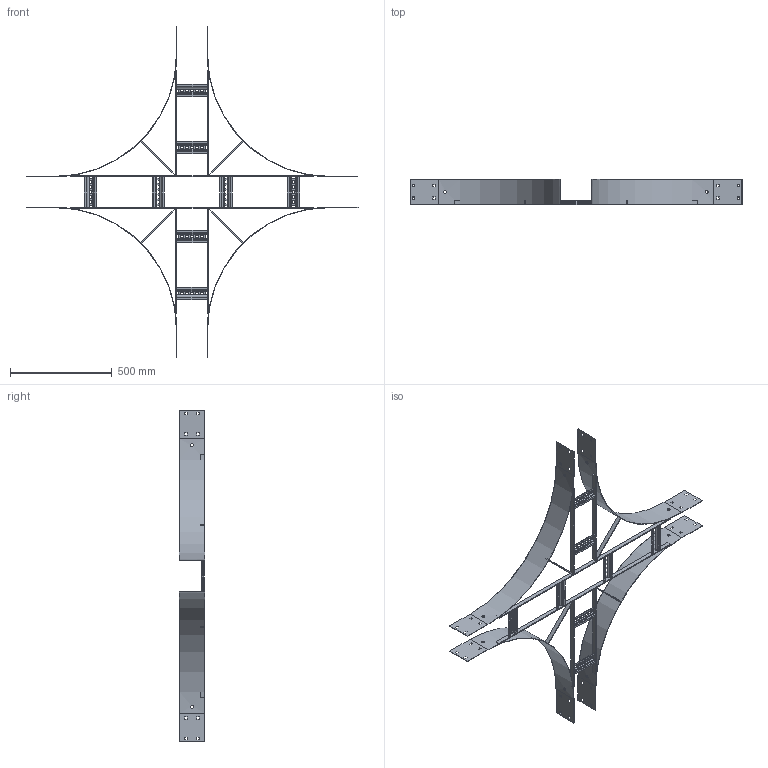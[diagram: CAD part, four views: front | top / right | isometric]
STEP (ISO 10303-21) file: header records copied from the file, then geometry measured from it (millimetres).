
FILE_DESCRIPTION (( 'STEP AP203' ), '1' );
FILE_NAME ('N3 C 1506.STEP', '2024-08-27T05:45:45', ( '' ), ( '' ), 'SwSTEP 2.0', 'SolidWorks 2023', '' );
FILE_SCHEMA (( 'CONFIG_CONTROL_DESIGN' ));
Length unit declared in the file: millimetre
Products named in the file (6): Ladder Tee 20x5 Flat Bar_1195; N3 C 1506; Ladder Tee 20x5 Flat Bar_518; Ladder Rung_Ladder Rung -  150mm; N3 RADIUS PLATE_N1-600 IR; Ladder Tee 20x5 Flat Bar_240
Assembly tree (22 placements, depth 2):
  N3 C 1506
    Ladder Rung_Ladder Rung -  150mm  x8
    Ladder Tee 20x5 Flat Bar_1195  x2
    N3 RADIUS PLATE_N1-600 IR  x4
    Ladder Tee 20x5 Flat Bar_518  x4
    Ladder Tee 20x5 Flat Bar_240  x4
Bounding box: 1635 x 124 x 1635 mm (x, y, z)
Volume: 1874708.2 mm3; surface area: 1672872.4 mm2
Topology: 22 solids, 22 shells, 788 faces, 1944 edges, 1200 vertices
Faces by surface type: plane 700, cylinder 88
Entity records: 5420 total; most frequent: CARTESIAN_POINT 1043, ORIENTED_EDGE 664, DIRECTION 662, EDGE_CURVE 332, LINE 304, VECTOR 304, VERTEX_POINT 208, AXIS2_PLACEMENT_3D 179
